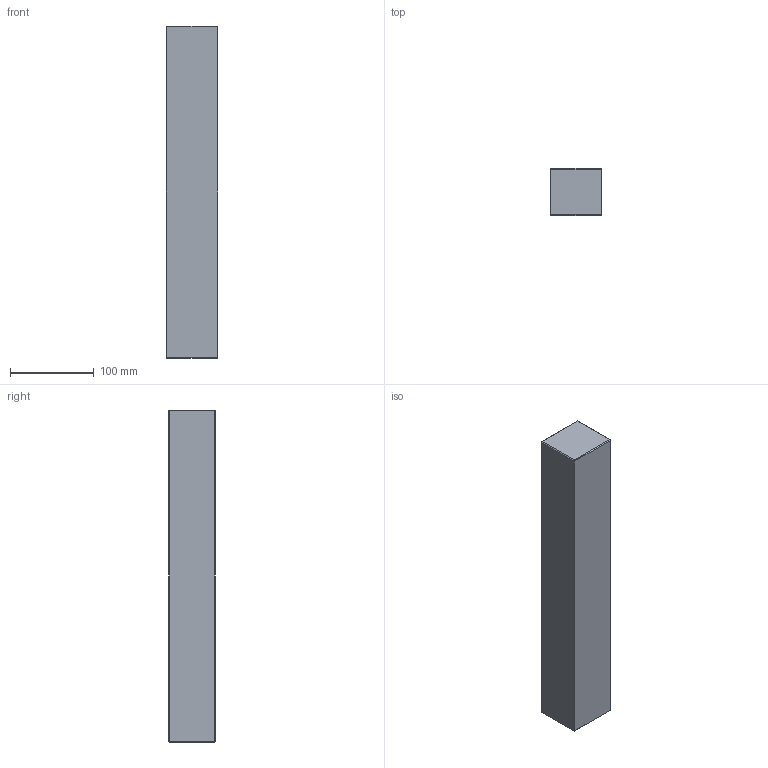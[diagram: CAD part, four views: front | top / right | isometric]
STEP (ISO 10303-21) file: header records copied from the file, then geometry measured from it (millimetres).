
FILE_DESCRIPTION (( 'STEP AP214' ), '1' );
FILE_NAME ('ESP-P-396X396x56.STEP', '2020-04-08T11:12:18', ( 'August' ), ( '' ), 'SwSTEP 2.0', 'SolidWorks 2018', '' );
FILE_SCHEMA (( 'AUTOMOTIVE_DESIGN' ));
Length unit declared in the file: millimetre
Products named in the file (1): ESP-P-396X396x56
Bounding box: 62 x 56 x 396 mm (x, y, z)
Volume: 1373889.3 mm3; surface area: 99192.6 mm2
Topology: 1 solids, 1 shells, 26 faces, 48 edges, 24 vertices
Faces by surface type: plane 26
Entity records: 634 total; most frequent: DIRECTION 102, CARTESIAN_POINT 99, ORIENTED_EDGE 96, EDGE_CURVE 48, VECTOR 48, LINE 48, AXIS2_PLACEMENT_3D 27, ADVANCED_FACE 26
